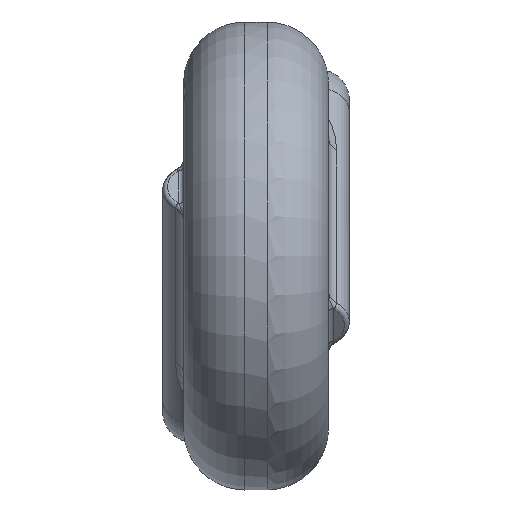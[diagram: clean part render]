
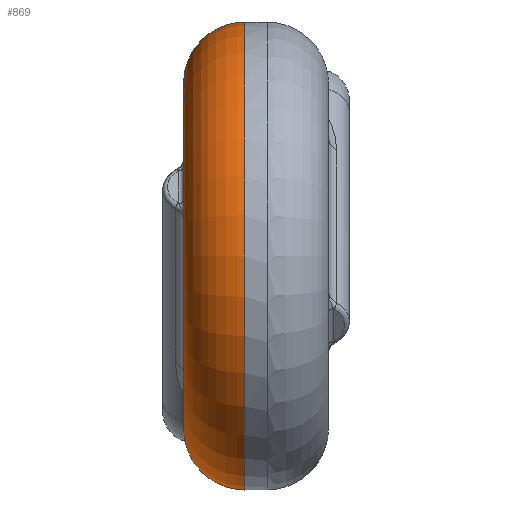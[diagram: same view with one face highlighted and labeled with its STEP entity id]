
A CAD part, left-side view. The second image highlights one B-rep face of the part: STEP entity #869.
In plain terms, the highlighted toroidal (fillet/blend) face has major radius 7.05 mm and minor radius 2.5 mm.
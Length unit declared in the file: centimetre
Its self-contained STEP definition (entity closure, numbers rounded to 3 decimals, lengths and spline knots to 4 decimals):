
#222=CARTESIAN_POINT('',(0.5134,0.51,-0.4832));
#223=VERTEX_POINT('',#222);
#230=CARTESIAN_POINT('',(0.6801,0.51,-0.1856));
#231=VERTEX_POINT('',#230);
#232=CARTESIAN_POINT('',(0.0,0.51,0.0));
#233=DIRECTION('',(0.0,-1.0,0.0));
#234=DIRECTION('',(-1.0,0.0,0.0));
#235=AXIS2_PLACEMENT_3D('',#232,#233,#234);
#236=CIRCLE('',#235,0.705);
#237=EDGE_CURVE('',#231,#223,#236,.T.);
#767=CARTESIAN_POINT('',(0.6801,0.51,-0.1856));
#768=CARTESIAN_POINT('',(0.6971,0.51,-0.2036));
#769=CARTESIAN_POINT('',(0.7343,0.5043,-0.2343));
#770=CARTESIAN_POINT('',(0.8112,0.4686,-0.2752));
#771=CARTESIAN_POINT('',(0.8686,0.3972,-0.3107));
#772=CARTESIAN_POINT('',(0.8728,0.3196,-0.3759));
#773=CARTESIAN_POINT('',(0.8491,0.2754,-0.4397));
#774=CARTESIAN_POINT('',(0.8071,0.2569,-0.5128));
#775=CARTESIAN_POINT('',(0.7579,0.2694,-0.5833));
#776=CARTESIAN_POINT('',(0.7094,0.3115,-0.6352));
#777=CARTESIAN_POINT('',(0.6666,0.372,-0.6516));
#778=CARTESIAN_POINT('',(0.6312,0.4305,-0.6307));
#779=CARTESIAN_POINT('',(0.5989,0.4753,-0.5866));
#780=CARTESIAN_POINT('',(0.5631,0.5034,-0.5322));
#781=CARTESIAN_POINT('',(0.5315,0.51,-0.4978));
#782=CARTESIAN_POINT('',(0.5134,0.51,-0.4832));
#783=B_SPLINE_CURVE_WITH_KNOTS('',3,(#767,#768,#769,#770,#771,#772,#773,#774,#775,#776,#777,#778,#779,#780,#781,#782),.UNSPECIFIED.,.F.,.U.,(4,1,1,1,1,1,1,1,1,1,1,1,1,4),(-1.2926,-1.2003,-1.1079,-0.9233,-0.831,-0.7386,-0.6463,-0.554,-0.4616,-0.3693,-0.277,-0.1847,-0.0923,0.),.UNSPECIFIED.);
#784=EDGE_CURVE('',#231,#223,#783,.T.);
#849=CARTESIAN_POINT('',(0.0,0.26,0.0));
#850=DIRECTION('',(0.0,1.0,0.0));
#851=DIRECTION('',(1.0,0.0,0.0));
#852=AXIS2_PLACEMENT_3D('',#849,#850,#851);
#853=TOROIDAL_SURFACE('',#852,0.705,0.25);
#854=CARTESIAN_POINT('',(0.955,0.26,0.));
#855=VERTEX_POINT('',#854);
#856=CARTESIAN_POINT('',(0.0,0.26,0.0));
#857=DIRECTION('',(0.0,1.0,0.0));
#858=DIRECTION('',(-1.0,0.0,0.0));
#859=AXIS2_PLACEMENT_3D('',#856,#857,#858);
#860=CIRCLE('',#859,0.955);
#861=EDGE_CURVE('',#855,#855,#860,.T.);
#862=ORIENTED_EDGE('',*,*,#861,.T.);
#863=EDGE_LOOP('',(#862));
#864=FACE_OUTER_BOUND('',#863,.T.);
#865=ORIENTED_EDGE('',*,*,#784,.F.);
#866=ORIENTED_EDGE('',*,*,#237,.T.);
#867=EDGE_LOOP('',(#865,#866));
#868=FACE_BOUND('',#867,.T.);
#869=ADVANCED_FACE('',(#864,#868),#853,.T.);
